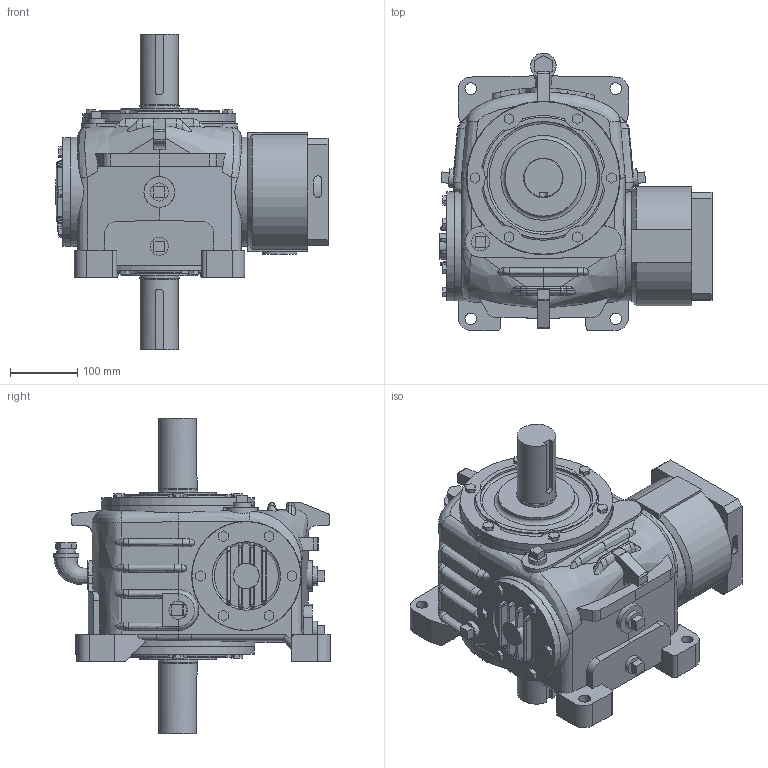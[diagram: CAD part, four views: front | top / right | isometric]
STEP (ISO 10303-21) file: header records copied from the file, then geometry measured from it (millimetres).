
FILE_DESCRIPTION(/* description */ ('Unknown'),/* implementation_level */ '2;1');
FILE_NAME(/* name */ 'V40CB-7CB12CBE-',/* time_stamp */ '2024-11-21T10:59:32-05:00',/* author */ ('Unknown'),/* organization */ ('Unknown'),/* preprocessor_version */ 'ST-DEVELOPER v19.4',/* originating_system */ 'Solid Edge',/* authorisation */ 'Unknown');
FILE_SCHEMA (('AUTOMOTIVE_DESIGN {1 0 10303 214 3 1 1}'));
Length unit declared in the file: millimetre
Products named in the file (7): V40CB-7CB12CBE-; 40-5-CP; 40-OUTS; 40-WCAP; 40-SM20-CP; MP3B-12-CP; KLC125-C-16
Assembly tree (7 placements, depth 2):
  V40CB-7CB12CBE-
    40-5-CP
    40-OUTS  x2
    40-WCAP
    40-SM20-CP
    MP3B-12-CP
    KLC125-C-16
Bounding box: 404.95 x 413.28 x 469.9 mm (x, y, z)
Volume: 18165841 mm3; surface area: 1114960 mm2
Topology: 7 solids, 7 shells, 750 faces, 1922 edges, 1258 vertices
Faces by surface type: plane 451, cylinder 144, bspline 113, torus 29, cone 13
Full cylindrical faces by diameter (mm): 0.254 x9, 5.188 x4, 9.525 x8, 14.122 x6, 17.462 x4, 26.924 x6, 38.087 x1, 38.1 x2, 39.688 x1, 45.72 x1, 57.137 x2, 58.737 x2, 63 x1, 77 x1, 80 x1, 98.425 x1, 101.6 x1, 102.108 x1, 105 x1, 120.218 x1, 150.012 x1, 150.05 x1, 161.925 x1, 162.56 x2, 227.33 x2, 228.6 x2
Entity records: 25676 total; most frequent: CARTESIAN_POINT 9201, ORIENTED_EDGE 3252, DIRECTION 2779, EDGE_CURVE 1626, VERTEX_POINT 1099, AXIS2_PLACEMENT_3D 938, LINE 903, VECTOR 903
